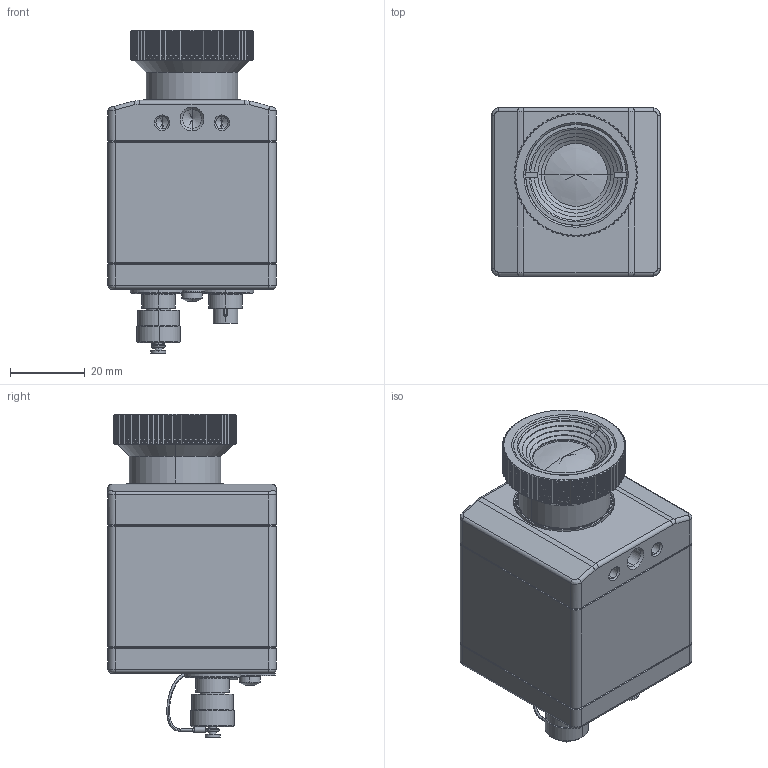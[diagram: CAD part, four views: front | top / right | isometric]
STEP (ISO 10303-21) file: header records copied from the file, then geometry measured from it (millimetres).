
FILE_DESCRIPTION (( 'STEP AP214' ), '1' );
FILE_NAME ('Pi-400i-O53.STEP', '2019-09-30T07:44:13', ( 'admin' ), ( '' ), 'SwSTEP 2.0', 'SolidWorks 2017', '' );
FILE_SCHEMA (( 'AUTOMOTIVE_DESIGN' ));
Length unit declared in the file: millimetre
Products named in the file (30): 9P119-X Rückwand PI-2S; 52067-25 Schaltlitze 0,14 braun; 52069-0003 Schaltlitze 0,14 gelb; 52066-25 Schaltlitze 0,14 gr黱; 52068-25 Schaltlitze 0,14 weiß; 1P110-2 Objektivhaltering G2; 52065-25 Schaltlitze 0,14 grau; 1P101 Frontplatte-PI2S; 9P459 Objektivgruppe F78-382p17; 52061-0003 Schaltlitze 0,14 schwarz; 1P468 Schraubring F56-382p17; 52060-25 Schaltlitze 0,14 rot; 9P459 Linsengruppe F78-382p17 EFFL=const.SLDPRT; 51099 Schutzkappe-712 FS_F〉 Pi; 54250 Temperaturaufkleber; 1R093 Linse2-L78-384-GE-p17; 61301 Linsenschraube DIN 7985 VZ M3x5_Linsenschraube KS DIN 7985 VZ M3x5; 63019 O-Ring 19 x 1_O-Ring 16 x 1; 63163 O-Ring NBR 50 x 1,5; 63023 O-Ring 23x1_O-Ring 23 x 1; 51095 Flanschstecker 712; 5-polig; 1P459 Objektivtubus F78-382p17; 51093 Flanschstecker 712; 5-1polig; 1P005 Hülsenmutter; 1P023 Heckplatte-steckbar; 1P102 Vierkantrohr-PI2_1P102-1; 9P425-X Chassis PI-400i; Pi-400i-O53; 62205 Sechskantmutter DIN 439 A2 M2,5_PreviewCfg; 63026 O-Ring 26x1_O-Ring 20 x 1
Assembly tree (36 placements, depth 4):
  Pi-400i-O53
    9P119-X Rückwand PI-2S
      1P023 Heckplatte-steckbar
      51093 Flanschstecker 712; 5-1polig
      51095 Flanschstecker 712; 5-polig
      63163 O-Ring NBR 50 x 1,5
      61301 Linsenschraube DIN 7985 VZ M3x5_Linsenschraube KS DIN 7985 VZ M3x5
      54250 Temperaturaufkleber
      51099 Schutzkappe-712 FS_F〉 Pi
      52060-25 Schaltlitze 0,14 rot
      52061-0003 Schaltlitze 0,14 schwarz
      52065-25 Schaltlitze 0,14 grau
      52068-25 Schaltlitze 0,14 weiß  x2
      52066-25 Schaltlitze 0,14 gr黱  x2
      52069-0003 Schaltlitze 0,14 gelb
      52067-25 Schaltlitze 0,14 braun
    9P425-X Chassis PI-400i
      1P101 Frontplatte-PI2S
      63026 O-Ring 26x1_O-Ring 20 x 1
      63163 O-Ring NBR 50 x 1,5
      62205 Sechskantmutter DIN 439 A2 M2,5_PreviewCfg  x2
    1P102 Vierkantrohr-PI2_1P102-1
    1P005 Hülsenmutter  x4
    9P459 Objektivgruppe F78-382p17
      1P459 Objektivtubus F78-382p17
      63023 O-Ring 23x1_O-Ring 23 x 1
      63019 O-Ring 19 x 1_O-Ring 16 x 1
      9P459 Linsengruppe F78-382p17 EFFL=const.SLDPRT
        1R093 Linse2-L78-384-GE-p17
      1P468 Schraubring F56-382p17
    1P110-2 Objektivhaltering G2
Bounding box: 45 x 45 x 86.54 mm (x, y, z)
Volume: 42799.6 mm3; surface area: 47043.4 mm2
Topology: 32 solids, 43 shells, 2089 faces, 5320 edges, 3347 vertices
Faces by surface type: cylinder 901, plane 525, cone 435, torus 114, bspline 102, sphere 12
Entity records: 72717 total; most frequent: CARTESIAN_POINT 23825, DIRECTION 9609, ORIENTED_EDGE 9578, EDGE_CURVE 4798, AXIS2_PLACEMENT_3D 3840, VERTEX_POINT 3068, EDGE_LOOP 2031, CIRCLE 2007
